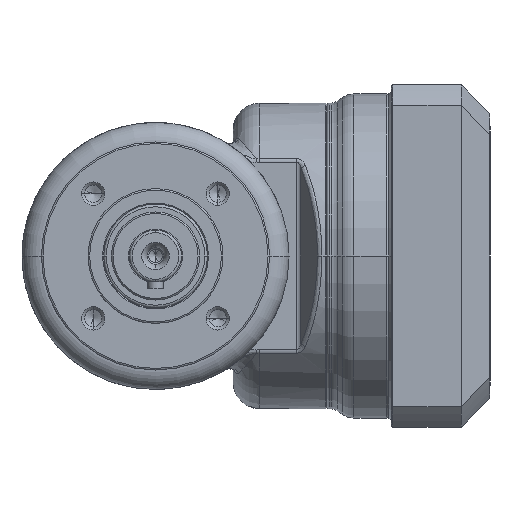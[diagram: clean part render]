
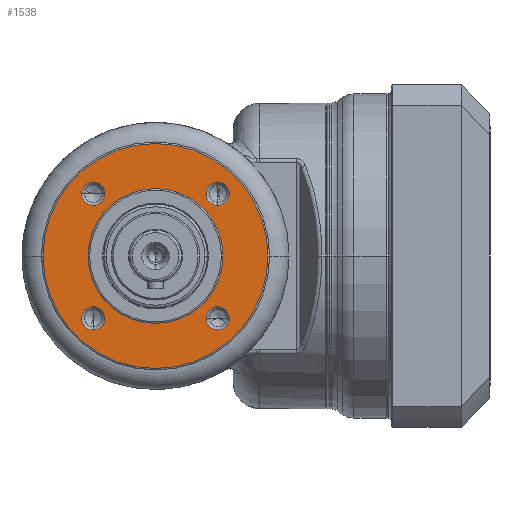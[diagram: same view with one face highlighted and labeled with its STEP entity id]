
A CAD part, left-side view. The second image highlights one B-rep face of the part: STEP entity #1538.
In plain terms, the highlighted planar face has unit normal (-1, 0, 0).
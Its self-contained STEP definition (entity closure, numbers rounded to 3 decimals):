
#173=CARTESIAN_POINT('',(2.,12.021,12.021));
#174=DIRECTION('',(1.,0.,0.));
#175=DIRECTION('',(0.,-1.,0.));
#176=AXIS2_PLACEMENT_3D('',#173,#174,#175);
#178=CARTESIAN_POINT('',(2.,12.021,12.021));
#179=DIRECTION('',(1.,0.,0.));
#180=DIRECTION('',(0.,1.,0.));
#181=AXIS2_PLACEMENT_3D('',#178,#179,#180);
#183=CARTESIAN_POINT('',(2.,12.021,-12.021));
#184=DIRECTION('',(1.,0.,0.));
#185=DIRECTION('',(0.,0.,1.));
#186=AXIS2_PLACEMENT_3D('',#183,#184,#185);
#188=CARTESIAN_POINT('',(2.,12.021,-12.021));
#189=DIRECTION('',(1.,0.,0.));
#190=DIRECTION('',(0.,0.,-1.));
#191=AXIS2_PLACEMENT_3D('',#188,#189,#190);
#193=CARTESIAN_POINT('',(2.,-12.021,-12.021));
#194=DIRECTION('',(1.,0.,0.));
#195=DIRECTION('',(0.,1.,0.));
#196=AXIS2_PLACEMENT_3D('',#193,#194,#195);
#198=CARTESIAN_POINT('',(2.,-12.021,-12.021));
#199=DIRECTION('',(1.,0.,0.));
#200=DIRECTION('',(0.,-1.,0.));
#201=AXIS2_PLACEMENT_3D('',#198,#199,#200);
#203=CARTESIAN_POINT('',(2.,-12.021,12.021));
#204=DIRECTION('',(1.,0.,0.));
#205=DIRECTION('',(0.,0.,-1.));
#206=AXIS2_PLACEMENT_3D('',#203,#204,#205);
#208=CARTESIAN_POINT('',(2.,-12.021,12.021));
#209=DIRECTION('',(1.,0.,0.));
#210=DIRECTION('',(0.,0.,1.));
#211=AXIS2_PLACEMENT_3D('',#208,#209,#210);
#213=CARTESIAN_POINT('',(2.,0.,0.));
#214=DIRECTION('',(-1.,0.,0.));
#215=DIRECTION('',(0.,1.,0.));
#216=AXIS2_PLACEMENT_3D('',#213,#214,#215);
#218=CARTESIAN_POINT('',(2.,0.,0.));
#219=DIRECTION('',(-1.,0.,0.));
#220=DIRECTION('',(0.,-1.,0.));
#221=AXIS2_PLACEMENT_3D('',#218,#219,#220);
#223=CARTESIAN_POINT('',(2.,0.,0.));
#224=DIRECTION('',(1.,0.,0.));
#225=DIRECTION('',(0.,1.,0.));
#226=AXIS2_PLACEMENT_3D('',#223,#224,#225);
#228=CARTESIAN_POINT('',(2.,0.,0.));
#229=DIRECTION('',(1.,0.,0.));
#230=DIRECTION('',(0.,-1.,0.));
#231=AXIS2_PLACEMENT_3D('',#228,#229,#230);
#1063=CARTESIAN_POINT('',(2.,9.771,12.021));
#1064=CARTESIAN_POINT('',(2.,14.271,12.021));
#1065=VERTEX_POINT('',#1063);
#1066=VERTEX_POINT('',#1064);
#1067=CARTESIAN_POINT('',(2.,12.021,-9.771));
#1068=CARTESIAN_POINT('',(2.,12.021,-14.271));
#1069=VERTEX_POINT('',#1067);
#1070=VERTEX_POINT('',#1068);
#1071=CARTESIAN_POINT('',(2.,-9.771,
-12.021));
#1072=CARTESIAN_POINT('',(2.,-14.271,
-12.021));
#1073=VERTEX_POINT('',#1071);
#1074=VERTEX_POINT('',#1072);
#1075=CARTESIAN_POINT('',(2.,-12.021,9.771));
#1076=CARTESIAN_POINT('',(2.,-12.021,14.271));
#1077=VERTEX_POINT('',#1075);
#1078=VERTEX_POINT('',#1076);
#1187=CARTESIAN_POINT('',(2.,13.,0.));
#1188=CARTESIAN_POINT('',(2.,-13.,0.));
#1189=VERTEX_POINT('',#1187);
#1190=VERTEX_POINT('',#1188);
#1219=CARTESIAN_POINT('',(2.,21.7,0.));
#1220=CARTESIAN_POINT('',(2.,-21.7,0.));
#1221=VERTEX_POINT('',#1219);
#1222=VERTEX_POINT('',#1220);
#1499=CARTESIAN_POINT('',(2.,0.,0.));
#1500=DIRECTION('',(-1.,0.,0.));
#1501=DIRECTION('',(0.,1.,0.));
#1502=AXIS2_PLACEMENT_3D('',#1499,#1500,#1501);
#1503=PLANE('',#1502);
#1504=ORIENTED_EDGE('',*,*,#1453,.T.);
#1505=ORIENTED_EDGE('',*,*,#1468,.T.);
#1506=EDGE_LOOP('',(#1504,#1505));
#1507=FACE_OUTER_BOUND('',#1506,.F.);
#1509=ORIENTED_EDGE('',*,*,#1508,.F.);
#1511=ORIENTED_EDGE('',*,*,#1510,.F.);
#1512=EDGE_LOOP('',(#1509,#1511));
#1513=FACE_BOUND('',#1512,.F.);
#1515=ORIENTED_EDGE('',*,*,#1514,.F.);
#1517=ORIENTED_EDGE('',*,*,#1516,.F.);
#1518=EDGE_LOOP('',(#1515,#1517));
#1519=FACE_BOUND('',#1518,.F.);
#1521=ORIENTED_EDGE('',*,*,#1520,.F.);
#1523=ORIENTED_EDGE('',*,*,#1522,.F.);
#1524=EDGE_LOOP('',(#1521,#1523));
#1525=FACE_BOUND('',#1524,.F.);
#1527=ORIENTED_EDGE('',*,*,#1526,.F.);
#1529=ORIENTED_EDGE('',*,*,#1528,.F.);
#1530=EDGE_LOOP('',(#1527,#1529));
#1531=FACE_BOUND('',#1530,.F.);
#1533=ORIENTED_EDGE('',*,*,#1532,.T.);
#1535=ORIENTED_EDGE('',*,*,#1534,.T.);
#1536=EDGE_LOOP('',(#1533,#1535));
#1537=FACE_BOUND('',#1536,.F.);
#1538=ADVANCED_FACE('',(#1507,#1513,#1519,#1525,#1531,#1537),#1503,.T.);
#177=CIRCLE('',#176,2.25);
#182=CIRCLE('',#181,2.25);
#187=CIRCLE('',#186,2.25);
#192=CIRCLE('',#191,2.25);
#197=CIRCLE('',#196,2.25);
#202=CIRCLE('',#201,2.25);
#207=CIRCLE('',#206,2.25);
#212=CIRCLE('',#211,2.25);
#217=CIRCLE('',#216,13.);
#222=CIRCLE('',#221,13.);
#227=CIRCLE('',#226,21.7);
#232=CIRCLE('',#231,21.7);
#1453=EDGE_CURVE('',#1221,#1222,#227,.T.);
#1468=EDGE_CURVE('',#1222,#1221,#232,.T.);
#1508=EDGE_CURVE('',#1065,#1066,#177,.T.);
#1510=EDGE_CURVE('',#1066,#1065,#182,.T.);
#1514=EDGE_CURVE('',#1069,#1070,#187,.T.);
#1516=EDGE_CURVE('',#1070,#1069,#192,.T.);
#1520=EDGE_CURVE('',#1073,#1074,#197,.T.);
#1522=EDGE_CURVE('',#1074,#1073,#202,.T.);
#1526=EDGE_CURVE('',#1077,#1078,#207,.T.);
#1528=EDGE_CURVE('',#1078,#1077,#212,.T.);
#1532=EDGE_CURVE('',#1189,#1190,#217,.T.);
#1534=EDGE_CURVE('',#1190,#1189,#222,.T.);
